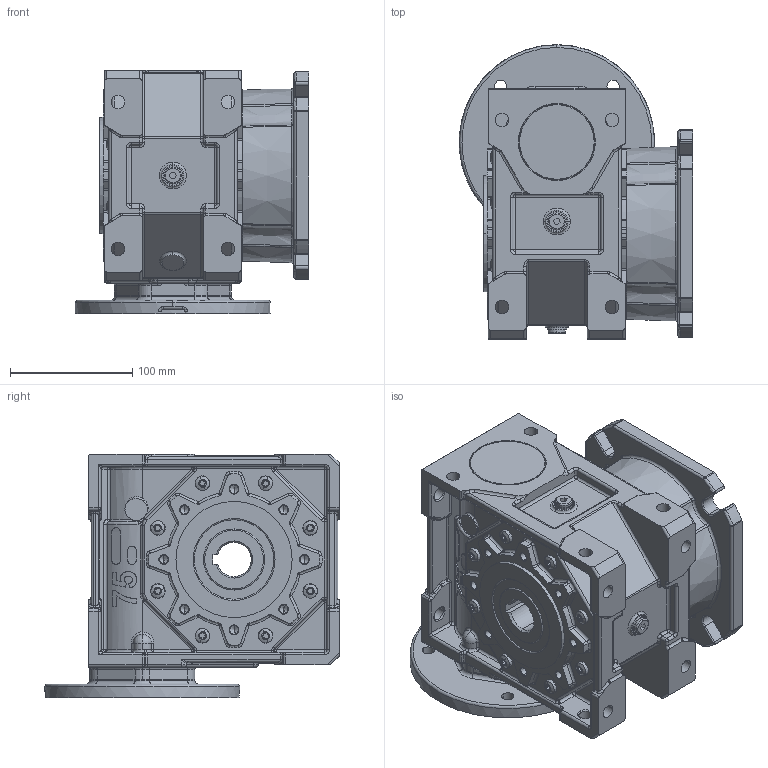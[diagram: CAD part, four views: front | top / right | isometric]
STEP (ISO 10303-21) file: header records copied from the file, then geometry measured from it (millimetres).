
FILE_DESCRIPTION (( 'STEP AP214' ), '1' );
FILE_NAME ('MKT75-FFL-80-130.STEP', '2006-05-10T05:02:39', ( '' ), ( '' ), 'SwSTEP 2.0', 'SolidWorks 2004146', '' );
FILE_SCHEMA (( 'AUTOMOTIVE_DESIGN' ));
Length unit declared in the file: millimetre
Products named in the file (6): Pøíruba FF MKT 75_Výchozí; pøíruba130 d72 MRT80a_Výchozí; Skrin MKT75_MKT 75 AP80; D6912_Šroub DIN 6912 - M8x25; D6912_Šroub DIN 6912 - M6x25; MKT75-FFL-80-130
Assembly tree (13 placements, depth 2):
  MKT75-FFL-80-130
    D6912_Šroub DIN 6912 - M6x25  x6
    Pøíruba FF MKT 75_Výchozí
    Skrin MKT75_MKT 75 AP80
    D6912_Šroub DIN 6912 - M8x25  x4
    pøíruba130 d72 MRT80a_Výchozí
Bounding box: 190.72 x 240.81 x 199 mm (x, y, z)
Volume: 3572359.4 mm3; surface area: 385042.2 mm2
Topology: 13 solids, 13 shells, 3038 faces, 7129 edges, 4018 vertices
Faces by surface type: cylinder 1087, torus 576, plane 561, bspline 305, sphere 257, cone 252
Entity records: 237298 total; most frequent: CARTESIAN_POINT 171212, DIRECTION 14002, ORIENTED_EDGE 12690, EDGE_CURVE 6345, AXIS2_PLACEMENT_3D 5964, VERTEX_POINT 3724, CIRCLE 3511, EDGE_LOOP 2915
